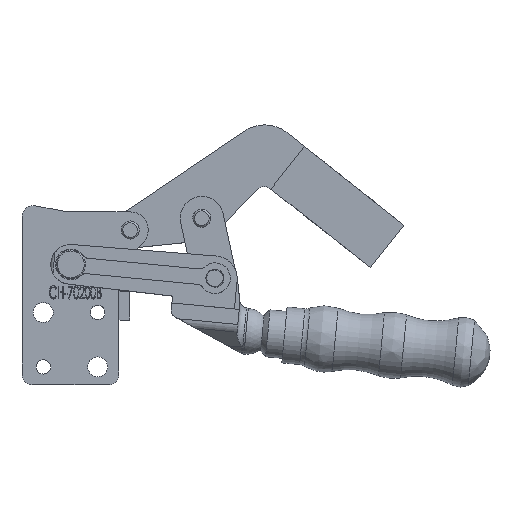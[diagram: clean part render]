
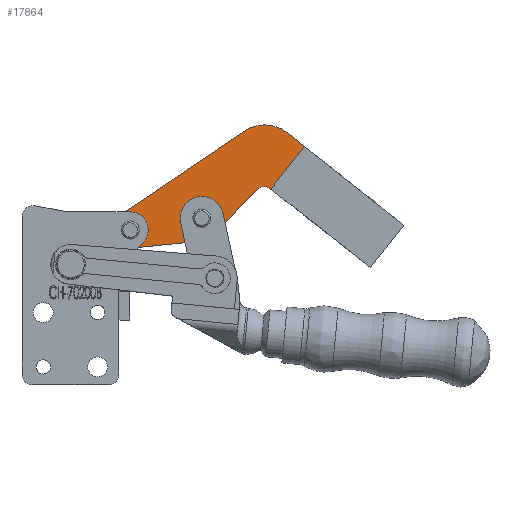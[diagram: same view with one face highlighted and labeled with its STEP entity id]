
A CAD part, top view. The second image highlights one B-rep face of the part: STEP entity #17864.
In plain terms, the highlighted planar face has unit normal (0, 0, 1).
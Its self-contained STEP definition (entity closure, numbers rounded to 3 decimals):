
#749=FACE_BOUND('',#6601,.T.);
#750=FACE_BOUND('',#6602,.T.);
#1235=PLANE('',#19538);
#2658=LINE('',#40591,#4201);
#2661=LINE('',#40599,#4204);
#2664=LINE('',#40607,#4207);
#2667=LINE('',#40615,#4210);
#2669=LINE('',#40618,#4212);
#4201=VECTOR('',#23720,1000.);
#4204=VECTOR('',#23729,1000.);
#4207=VECTOR('',#23738,1000.);
#4210=VECTOR('',#23747,1000.);
#4212=VECTOR('',#23751,1000.);
#5513=FACE_OUTER_BOUND('',#6600,.T.);
#6600=EDGE_LOOP('',(#16271,#16272,#16273,#16274,#16275,#16276,#16277,#16278,
#16279));
#6601=EDGE_LOOP('',(#16280,#16281));
#6602=EDGE_LOOP('',(#16282,#16283));
#7225=CIRCLE('',#19450,3.);
#7226=CIRCLE('',#19451,3.);
#7229=CIRCLE('',#19455,3.);
#7230=CIRCLE('',#19456,3.);
#7277=CIRCLE('',#19527,10.);
#7278=CIRCLE('',#19530,5.);
#7279=CIRCLE('',#19533,10.);
#7280=CIRCLE('',#19537,3.);
#8856=VERTEX_POINT('',#40409);
#8857=VERTEX_POINT('',#40411);
#8860=VERTEX_POINT('',#40419);
#8861=VERTEX_POINT('',#40421);
#8914=VERTEX_POINT('',#40568);
#8922=VERTEX_POINT('',#40588);
#8923=VERTEX_POINT('',#40590);
#8924=VERTEX_POINT('',#40594);
#8925=VERTEX_POINT('',#40598);
#8926=VERTEX_POINT('',#40602);
#8927=VERTEX_POINT('',#40606);
#8928=VERTEX_POINT('',#40610);
#8929=VERTEX_POINT('',#40614);
#11318=EDGE_CURVE('',#8856,#8857,#7225,.T.);
#11319=EDGE_CURVE('',#8857,#8856,#7226,.T.);
#11323=EDGE_CURVE('',#8860,#8861,#7229,.T.);
#11324=EDGE_CURVE('',#8861,#8860,#7230,.T.);
#11407=EDGE_CURVE('',#8922,#8923,#2658,.T.);
#11409=EDGE_CURVE('',#8923,#8924,#7277,.T.);
#11411=EDGE_CURVE('',#8924,#8925,#2661,.T.);
#11413=EDGE_CURVE('',#8925,#8926,#7278,.T.);
#11415=EDGE_CURVE('',#8926,#8927,#2664,.T.);
#11417=EDGE_CURVE('',#8927,#8928,#7279,.T.);
#11419=EDGE_CURVE('',#8928,#8929,#2667,.T.);
#11421=EDGE_CURVE('',#8929,#8914,#2669,.T.);
#11422=EDGE_CURVE('',#8914,#8922,#7280,.T.);
#16271=ORIENTED_EDGE('',*,*,#11421,.F.);
#16272=ORIENTED_EDGE('',*,*,#11419,.F.);
#16273=ORIENTED_EDGE('',*,*,#11417,.F.);
#16274=ORIENTED_EDGE('',*,*,#11415,.F.);
#16275=ORIENTED_EDGE('',*,*,#11413,.F.);
#16276=ORIENTED_EDGE('',*,*,#11411,.F.);
#16277=ORIENTED_EDGE('',*,*,#11409,.F.);
#16278=ORIENTED_EDGE('',*,*,#11407,.F.);
#16279=ORIENTED_EDGE('',*,*,#11422,.F.);
#16280=ORIENTED_EDGE('',*,*,#11319,.F.);
#16281=ORIENTED_EDGE('',*,*,#11318,.F.);
#16282=ORIENTED_EDGE('',*,*,#11324,.F.);
#16283=ORIENTED_EDGE('',*,*,#11323,.F.);
#17864=ADVANCED_FACE('',(#5513,#749,#750),#1235,.F.);
#19450=AXIS2_PLACEMENT_3D('',#40412,#23531,#23532);
#19451=AXIS2_PLACEMENT_3D('',#40413,#23533,#23534);
#19455=AXIS2_PLACEMENT_3D('',#40422,#23542,#23543);
#19456=AXIS2_PLACEMENT_3D('',#40423,#23544,#23545);
#19527=AXIS2_PLACEMENT_3D('',#40595,#23724,#23725);
#19530=AXIS2_PLACEMENT_3D('',#40603,#23733,#23734);
#19533=AXIS2_PLACEMENT_3D('',#40611,#23742,#23743);
#19537=AXIS2_PLACEMENT_3D('',#40620,#23754,#23755);
#19538=AXIS2_PLACEMENT_3D('',#40621,#23756,#23757);
#23531=DIRECTION('center_axis',(0.,0.,1.));
#23532=DIRECTION('ref_axis',(1.,0.,0.));
#23533=DIRECTION('center_axis',(0.,0.,1.));
#23534=DIRECTION('ref_axis',(1.,0.,0.));
#23542=DIRECTION('center_axis',(0.,0.,1.));
#23543=DIRECTION('ref_axis',(1.,0.,0.));
#23544=DIRECTION('center_axis',(0.,0.,1.));
#23545=DIRECTION('ref_axis',(1.,0.,0.));
#23720=DIRECTION('',(0.996,-0.094,0.));
#23724=DIRECTION('center_axis',(0.,0.,-1.));
#23725=DIRECTION('ref_axis',(-1.,0.,0.));
#23729=DIRECTION('',(0.697,-0.717,0.));
#23733=DIRECTION('center_axis',(0.,0.,-1.));
#23734=DIRECTION('ref_axis',(-1.,0.,0.));
#23738=DIRECTION('',(-0.953,0.303,0.));
#23742=DIRECTION('center_axis',(0.,0.,-1.));
#23743=DIRECTION('ref_axis',(-1.,0.,0.));
#23747=DIRECTION('',(0.,1.,0.));
#23751=DIRECTION('',(1.,0.,0.));
#23754=DIRECTION('center_axis',(0.,0.,1.));
#23755=DIRECTION('ref_axis',(-1.,0.,0.));
#23756=DIRECTION('center_axis',(0.,0.,-1.));
#23757=DIRECTION('ref_axis',(-1.,0.,0.));
#40409=CARTESIAN_POINT('',(66.153,-97.83,10.5));
#40411=CARTESIAN_POINT('',(72.153,-97.83,10.5));
#40412=CARTESIAN_POINT('Origin',(69.153,-97.83,10.5));
#40413=CARTESIAN_POINT('Origin',(69.153,-97.83,10.5));
#40419=CARTESIAN_POINT('',(81.007,-111.341,10.5));
#40421=CARTESIAN_POINT('',(87.007,-111.341,10.5));
#40422=CARTESIAN_POINT('Origin',(84.007,-111.341,10.5));
#40423=CARTESIAN_POINT('Origin',(84.007,-111.341,10.5));
#40568=CARTESIAN_POINT('',(51.007,-87.841,10.5));
#40588=CARTESIAN_POINT('',(53.804,-90.834,10.5));
#40590=CARTESIAN_POINT('',(69.114,-92.272,10.5));
#40591=CARTESIAN_POINT('',(53.804,-90.834,10.5));
#40594=CARTESIAN_POINT('',(75.35,-95.259,10.5));
#40595=CARTESIAN_POINT('Origin',(68.178,-102.228,10.5));
#40598=CARTESIAN_POINT('',(87.593,-107.856,10.5));
#40599=CARTESIAN_POINT('',(75.35,-95.259,10.5));
#40602=CARTESIAN_POINT('',(82.493,-116.106,10.5));
#40603=CARTESIAN_POINT('Origin',(84.007,-111.341,10.5));
#40606=CARTESIAN_POINT('',(42.98,-103.555,10.5));
#40607=CARTESIAN_POINT('',(82.493,-116.106,10.5));
#40610=CARTESIAN_POINT('',(36.007,-94.024,10.5));
#40611=CARTESIAN_POINT('Origin',(46.007,-94.024,10.5));
#40614=CARTESIAN_POINT('',(36.007,-87.841,10.5));
#40615=CARTESIAN_POINT('',(36.007,-144.482,10.5));
#40618=CARTESIAN_POINT('',(89.007,-87.841,10.5));
#40620=CARTESIAN_POINT('Origin',(54.007,-87.841,10.5));
#40621=CARTESIAN_POINT('Origin',(89.007,-144.482,10.5));
